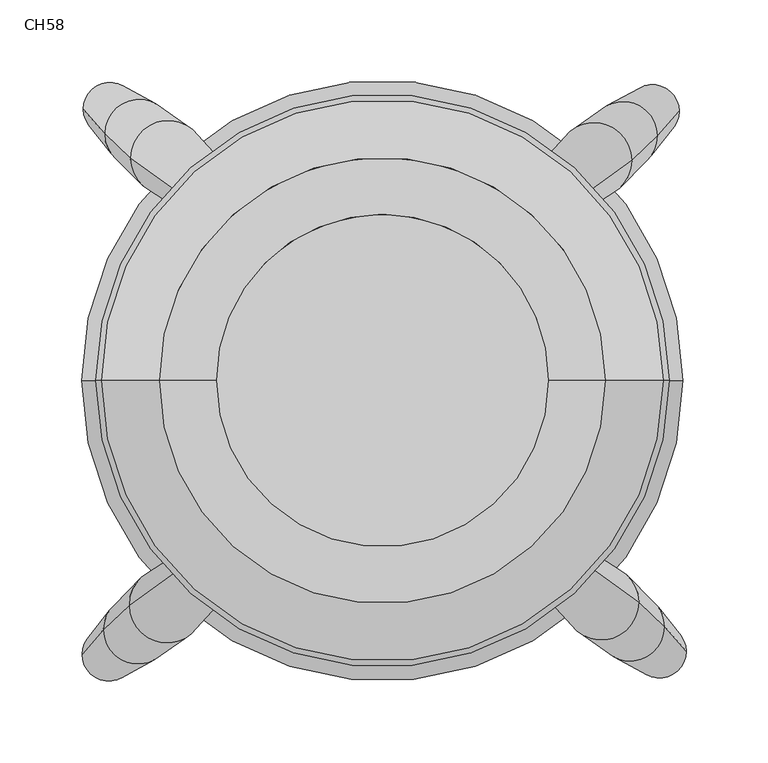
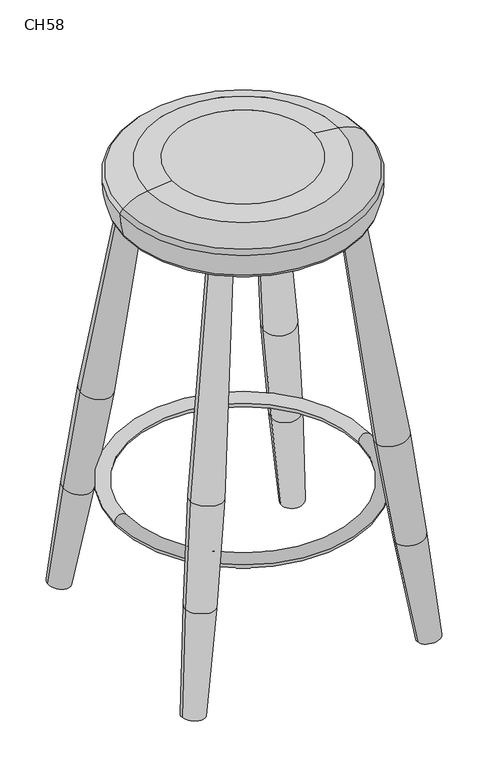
"""IFC4 building model written with IfcOpenShell, lengths in millimetres: furniture geometry, CarlHansen_Seating_Stool_CH56-CH58Barstool : CH58."""

from ifc_helpers import new_model, si_unit, point, frame, origin, place, context, project, spatial, polyline, circle_curve, ellipse_curve, trimmed, source, transform, mapped, element, save
from ifc_brep_helpers import plane_surface, revolved_surface, advanced_brep


def ch58_51923f9c(model_context):
    return source(origin(), model_context, "Body", "AdvancedBrep", [
        advanced_brep(
        [(-797.3298053, 427.0616167, -3.6035523), (-829.5052121, 426.6773511, 0.2039559), (-813.1899315, 426.6773511, 0.2039559), (-774.9628405, 412.1502766, 144.145945), (-816.4165948, 411.6552012, 149.0514156), (-755.2325863, 397.2334777, 291.9495314), (-800.7520729, 396.6898459, 297.3361244), (-723.203949, 364.5685858, 615.6106724), (-755.5848301, 364.1818663, 619.4424956), (-739.4881523, 364.4543855, 616.7422298)],
        [
            (0, 1, circle_curve(frame((-813.4175087, 426.8694839, -1.6997982), z_axis=(-0.11810468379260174, 0.09971026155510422, -0.9879823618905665), x_axis=(-0.9930011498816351, -0.011859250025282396, 0.11750776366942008)), 16.2010924)),
            (1, 2),
            (2, 0),
            (1, 0, circle_curve(frame((-813.4175087, 426.8694839, -1.6997982), z_axis=(-0.11810468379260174, 0.09971026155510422, -0.9879823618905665), x_axis=(-0.9930011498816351, -0.011859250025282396, 0.11750776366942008)), 16.2010924)),
            (3, 4, circle_curve(frame((-795.6897176, 411.9027389, 146.5986803), z_axis=(-0.11810468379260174, 0.09971026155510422, -0.9879823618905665), x_axis=(-0.9930011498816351, -0.011859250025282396, 0.11750776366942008)), 20.8729639)),
            (4, 1),
            (0, 3),
            (4, 3, circle_curve(frame((-795.6897176, 411.9027389, 146.5986803), z_axis=(-0.11810468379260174, 0.09971026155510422, -0.9879823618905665), x_axis=(-0.9930011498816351, -0.011859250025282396, 0.11750776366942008)), 20.8729639)),
            (5, 6, circle_curve(frame((-777.9923296, 396.9616618, 294.6428279), z_axis=(-0.11810468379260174, 0.09971026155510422, -0.9879823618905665), x_axis=(-0.9930011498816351, -0.011859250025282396, 0.11750776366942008)), 22.920158)),
            (6, 4, circle_curve(frame((3460.6054776, 449.2288506, -223.248308), z_axis=(0.0, -0.9949458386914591, -0.1004130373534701), x_axis=(1.0, 0.0, 0.0)), 4293.3596019)),
            (3, 5, circle_curve(frame((-5020.4357739, 347.9411646, 780.3640153), z_axis=(0.0, -0.9949458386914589, -0.10041303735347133), x_axis=(-0.9721025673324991, -0.023552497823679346, 0.2333706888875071)), 4293.3596019)),
            (6, 5, circle_curve(frame((-777.9923296, 396.9616618, 294.6428279), z_axis=(-0.11810468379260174, 0.09971026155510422, -0.9879823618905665), x_axis=(-0.9930011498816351, -0.011859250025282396, 0.11750776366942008)), 22.920158)),
            (7, 8, circle_curve(frame((-739.3943896, 364.375226, 617.526584), z_axis=(-0.11810468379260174, 0.09971026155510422, -0.9879823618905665), x_axis=(-0.9930011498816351, -0.011859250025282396, 0.11750776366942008)), 16.3045537)),
            (8, 6, circle_curve(frame((9062.301073, 518.2931118, -907.573781), z_axis=(0.0, -0.9949458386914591, -0.1004130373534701), x_axis=(1.0, 0.0, 0.0)), 9937.1229535)),
            (5, 7, circle_curve(frame((-10627.1865865, 283.1447869, 1422.4010261), z_axis=(0.0, -0.9949458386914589, -0.10041303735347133), x_axis=(-0.9721025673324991, -0.023552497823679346, 0.2333706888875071)), 9937.1229535)),
            (8, 7, circle_curve(frame((-739.3943896, 364.375226, 617.526584), z_axis=(-0.11810468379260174, 0.09971026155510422, -0.9879823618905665), x_axis=(-0.9930011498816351, -0.011859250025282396, 0.11750776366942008)), 16.3045537)),
            (9, 8),
            (7, 9),
        ],
        [
            revolved_surface(polyline([(-813.1899315, 426.6773511, 0.2039559), (-829.5052121, 426.6773511, 0.2039559)]), (-726.1855757, 353.2236421, 728.0224148), (0.11810468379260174, -0.09971026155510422, 0.9879823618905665)),
            revolved_surface(polyline([(-829.5052121, 426.6773511, 0.2039559), (-816.4165948, 411.6552012, 149.0514156)]), (-726.1855757, 353.2236421, 728.0224148), (0.11810468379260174, -0.09971026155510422, 0.9879823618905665)),
            revolved_surface(trimmed(ellipse_curve(frame((3460.6054776, 449.2288506, -223.248308), z_axis=(0.0, 0.9949458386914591, 0.1004130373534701), x_axis=(1.0, 0.0, 0.0)), 4293.3596019, 4293.3596019), [point((-816.4165948, 411.6552012, 149.0514156))], [point((-800.7520729, 396.6898459, 297.3361244))], True, "CARTESIAN"), (-726.1855757, 353.2236421, 728.0224148), (0.11810468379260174, -0.09971026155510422, 0.9879823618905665)),
            revolved_surface(trimmed(ellipse_curve(frame((3460.6054776, 449.2288506, -223.248308), z_axis=(0.0, 0.9949458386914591, 0.10041303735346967), x_axis=(1.0, 0.0, 0.0)), 4293.3596019, 4293.3596019), [point((-816.4165948, 411.6552012, 149.0514156))], [point((-800.7520729, 396.6898459, 297.3361244))], True, "CARTESIAN"), (-726.1855757, 353.2236421, 728.0224148), (0.11810468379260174, -0.09971026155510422, 0.9879823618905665)),
            revolved_surface(trimmed(ellipse_curve(frame((9062.301073, 518.2931118, -907.573781), z_axis=(0.0, 0.9949458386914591, 0.1004130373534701), x_axis=(1.0, 0.0, 0.0)), 9937.1229535, 9937.1229535), [point((-800.7520729, 396.6898459, 297.3361244))], [point((-755.5848301, 364.1818663, 619.4424956))], True, "CARTESIAN"), (-726.1855757, 353.2236421, 728.0224148), (0.11810468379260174, -0.09971026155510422, 0.9879823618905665)),
            revolved_surface(trimmed(ellipse_curve(frame((9062.301073, 518.2931118, -907.573781), z_axis=(0.0, 0.9949458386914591, 0.10041303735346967), x_axis=(1.0, 0.0, 0.0)), 9937.1229535, 9937.1229535), [point((-800.7520729, 396.6898459, 297.3361244))], [point((-755.5848301, 364.1818663, 619.4424956))], True, "CARTESIAN"), (-726.1855757, 353.2236421, 728.0224148), (0.11810468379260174, -0.09971026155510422, 0.9879823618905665)),
            revolved_surface(polyline([(-755.5848301, 364.1818663, 619.4424956), (-739.4881523, 364.4543855, 616.7422298)]), (-726.1855757, 353.2236421, 728.0224148), (0.11810468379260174, -0.09971026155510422, 0.9879823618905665)),
        ],
        [
            (0, [[1, 2, 3]]),
            (0, [[4, -3, -2]]),
            (1, [[5, 6, -1, 7]]),
            (1, [[8, -7, -4, -6]]),
            (2, [[9, 10, -5, 11]]),
            (3, [[12, -11, -8, -10]]),
            (4, [[13, 14, -9, 15]]),
            (5, [[16, -15, -12, -14]]),
            (6, [[17, -13, 18]]),
            (6, [[-18, -16, -17]]),
        ],
    ),
        advanced_brep(
        [(-481.9670889, 425.2740692, 8.2729303), (-465.6518083, 425.2740692, 8.2729303), (-497.827215, 425.6583348, 4.465422), (-478.7404256, 410.2519193, 157.12039), (-520.1941799, 410.7469947, 152.2149193), (-494.4049475, 395.286564, 305.4050987), (-539.924434, 395.8301958, 300.0185057), (-539.5721902, 362.7785843, 627.51147), (-571.9530713, 363.1653039, 623.6796467), (-555.6688681, 363.0511036, 624.8112041)],
        [
            (0, 1),
            (1, 2, circle_curve(frame((-481.7395116, 425.466202, 6.3691761), z_axis=(0.11810468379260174, 0.09971026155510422, -0.9879823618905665), x_axis=(0.9930011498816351, -0.011859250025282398, 0.11750776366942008)), 16.2010924)),
            (2, 0),
            (2, 1, circle_curve(frame((-481.7395116, 425.466202, 6.3691761), z_axis=(0.11810468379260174, 0.09971026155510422, -0.9879823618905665), x_axis=(0.9930011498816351, -0.011859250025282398, 0.11750776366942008)), 16.2010924)),
            (1, 3),
            (3, 4, circle_curve(frame((-499.4673027, 410.499457, 154.6676547), z_axis=(0.11810468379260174, 0.09971026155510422, -0.9879823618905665), x_axis=(0.9930011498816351, -0.011859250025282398, 0.11750776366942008)), 20.8729639)),
            (4, 2),
            (4, 3, circle_curve(frame((-499.4673027, 410.499457, 154.6676547), z_axis=(0.11810468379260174, 0.09971026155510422, -0.9879823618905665), x_axis=(0.9930011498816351, -0.011859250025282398, 0.11750776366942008)), 20.8729639)),
            (3, 5, circle_curve(frame((-4755.762498, 447.8255687, -215.1793336), z_axis=(0.0, -0.9949458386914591, -0.10041303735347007), x_axis=(-1.0, 0.0, 0.0)), 4293.3596019)),
            (5, 6, circle_curve(frame((-517.1646908, 395.5583799, 302.7118022), z_axis=(0.11810468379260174, 0.09971026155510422, -0.9879823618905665), x_axis=(0.9930011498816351, -0.011859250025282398, 0.11750776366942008)), 22.920158)),
            (6, 4, circle_curve(frame((3725.2787535, 346.5378826, 788.4329896), z_axis=(0.0, -0.9949458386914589, -0.10041303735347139), x_axis=(0.9721025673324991, -0.023552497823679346, 0.23337068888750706)), 4293.3596019)),
            (6, 5, circle_curve(frame((-517.1646908, 395.5583799, 302.7118022), z_axis=(0.11810468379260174, 0.09971026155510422, -0.9879823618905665), x_axis=(0.9930011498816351, -0.011859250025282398, 0.11750776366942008)), 22.920158)),
            (5, 7, circle_curve(frame((-10357.4580934, 516.8898299, -899.5048067), z_axis=(0.0, -0.9949458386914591, -0.10041303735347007), x_axis=(-1.0, 0.0, 0.0)), 9937.1229535)),
            (7, 8, circle_curve(frame((-555.7626308, 362.9719441, 625.5955583), z_axis=(0.11810468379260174, 0.09971026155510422, -0.9879823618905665), x_axis=(0.9930011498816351, -0.011859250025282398, 0.11750776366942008)), 16.3045537)),
            (8, 6, circle_curve(frame((9332.0295661, 281.741505, 1430.4700004), z_axis=(0.0, -0.9949458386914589, -0.10041303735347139), x_axis=(0.9721025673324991, -0.023552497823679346, 0.23337068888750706)), 9937.1229535)),
            (8, 7, circle_curve(frame((-555.7626308, 362.9719441, 625.5955583), z_axis=(0.11810468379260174, 0.09971026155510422, -0.9879823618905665), x_axis=(0.9930011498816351, -0.011859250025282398, 0.11750776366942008)), 16.3045537)),
            (7, 9),
            (9, 8),
        ],
        [
            revolved_surface(polyline([(-465.6518083, 425.2740692, 8.2729303), (-481.9670889, 425.2740692, 8.2729303)]), (-568.9714447, 351.8203602, 736.0913891), (0.11810468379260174, 0.09971026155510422, -0.9879823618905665)),
            revolved_surface(polyline([(-478.7404256, 410.2519193, 157.12039), (-465.6518083, 425.2740692, 8.2729303)]), (-568.9714447, 351.8203602, 736.0913891), (0.11810468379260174, 0.09971026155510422, -0.9879823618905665)),
            revolved_surface(trimmed(ellipse_curve(frame((-4755.762498, 447.8255687, -215.1793336), z_axis=(0.0, 0.9949458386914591, 0.10041303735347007), x_axis=(-1.0, 0.0, 0.0)), 4293.3596019, 4293.3596019), [point((-494.4049475, 395.286564, 305.4050987))], [point((-478.7404256, 410.2519193, 157.12039))], True, "CARTESIAN"), (-568.9714447, 351.8203602, 736.0913891), (0.11810468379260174, 0.09971026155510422, -0.9879823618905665)),
            revolved_surface(trimmed(ellipse_curve(frame((-4755.762498, 447.8255687, -215.1793336), z_axis=(0.0, 0.9949458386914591, 0.10041303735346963), x_axis=(-1.0, 0.0, 0.0)), 4293.3596019, 4293.3596019), [point((-494.4049475, 395.286564, 305.4050987))], [point((-478.7404256, 410.2519193, 157.12039))], True, "CARTESIAN"), (-568.9714447, 351.8203602, 736.0913891), (0.11810468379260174, 0.09971026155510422, -0.9879823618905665)),
            revolved_surface(trimmed(ellipse_curve(frame((-10357.4580934, 516.8898299, -899.5048067), z_axis=(0.0, 0.9949458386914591, 0.10041303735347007), x_axis=(-1.0, 0.0, 0.0)), 9937.1229535, 9937.1229535), [point((-539.5721902, 362.7785843, 627.51147))], [point((-494.4049475, 395.286564, 305.4050987))], True, "CARTESIAN"), (-568.9714447, 351.8203602, 736.0913891), (0.11810468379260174, 0.09971026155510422, -0.9879823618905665)),
            revolved_surface(trimmed(ellipse_curve(frame((-10357.4580934, 516.8898299, -899.5048067), z_axis=(0.0, 0.9949458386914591, 0.10041303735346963), x_axis=(-1.0, 0.0, 0.0)), 9937.1229535, 9937.1229535), [point((-539.5721902, 362.7785843, 627.51147))], [point((-494.4049475, 395.286564, 305.4050987))], True, "CARTESIAN"), (-568.9714447, 351.8203602, 736.0913891), (0.11810468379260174, 0.09971026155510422, -0.9879823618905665)),
            revolved_surface(polyline([(-555.6688681, 363.0511036, 624.8112041), (-539.5721902, 362.7785843, 627.51147)]), (-568.9714447, 351.8203602, 736.0913891), (0.11810468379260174, 0.09971026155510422, -0.9879823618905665)),
        ],
        [
            (0, [[1, 2, 3]]),
            (0, [[-3, 4, -1]]),
            (1, [[-2, 5, 6, 7]]),
            (1, [[-4, -7, 8, -5]]),
            (2, [[-6, 9, 10, 11]]),
            (3, [[-8, -11, 12, -9]]),
            (4, [[-10, 13, 14, 15]]),
            (5, [[-12, -15, 16, -13]]),
            (6, [[-14, 17, 18]]),
            (6, [[-16, -18, -17]]),
        ],
    ),
        advanced_brep(
        [(-493.5735026, 94.8762682, -3.598143), (-461.3980959, 95.2605338, 0.2093652), (-477.7133765, 95.2605338, 0.2093652), (-515.9404675, 109.7876083, 144.1513543), (-474.4867132, 110.2826837, 149.0568249), (-535.6707216, 124.7044073, 291.9549407), (-490.1512351, 125.2480391, 297.3415337), (-567.6993589, 157.3692992, 615.6160817), (-535.3184778, 157.7560187, 619.447905), (-551.4151557, 157.4834995, 616.7476391)],
        [
            (0, 1, circle_curve(frame((-477.4857992, 95.068401, -1.6943889), z_axis=(0.11810468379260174, -0.09971026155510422, -0.9879823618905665), x_axis=(0.9930011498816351, 0.011859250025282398, 0.11750776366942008)), 16.2010924)),
            (1, 2),
            (2, 0),
            (1, 0, circle_curve(frame((-477.4857992, 95.068401, -1.6943889), z_axis=(0.11810468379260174, -0.09971026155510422, -0.9879823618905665), x_axis=(0.9930011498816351, 0.011859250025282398, 0.11750776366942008)), 16.2010924)),
            (3, 4, circle_curve(frame((-495.2135903, 110.035146, 146.6040896), z_axis=(0.11810468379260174, -0.09971026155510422, -0.9879823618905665), x_axis=(0.9930011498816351, 0.011859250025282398, 0.11750776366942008)), 20.8729639)),
            (4, 1),
            (0, 3),
            (4, 3, circle_curve(frame((-495.2135903, 110.035146, 146.6040896), z_axis=(0.11810468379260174, -0.09971026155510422, -0.9879823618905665), x_axis=(0.9930011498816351, 0.011859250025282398, 0.11750776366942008)), 20.8729639)),
            (5, 6, circle_curve(frame((-512.9109784, 124.9762232, 294.6482372), z_axis=(0.11810468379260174, -0.09971026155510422, -0.9879823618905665), x_axis=(0.9930011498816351, 0.011859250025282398, 0.11750776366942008)), 22.920158)),
            (6, 4, circle_curve(frame((-4751.5087856, 72.7090344, -223.2428987), z_axis=(0.0, 0.9949458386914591, -0.10041303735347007), x_axis=(-1.0, 0.0, 0.0)), 4293.3596019)),
            (3, 5, circle_curve(frame((3729.5324659, 173.9967204, 780.3694246), z_axis=(0.0, 0.9949458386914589, -0.10041303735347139), x_axis=(0.9721025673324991, 0.023552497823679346, 0.23337068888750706)), 4293.3596019)),
            (6, 5, circle_curve(frame((-512.9109784, 124.9762232, 294.6482372), z_axis=(0.11810468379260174, -0.09971026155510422, -0.9879823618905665), x_axis=(0.9930011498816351, 0.011859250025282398, 0.11750776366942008)), 22.920158)),
            (7, 8, circle_curve(frame((-551.5089184, 157.5626589, 617.5319933), z_axis=(0.11810468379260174, -0.09971026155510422, -0.9879823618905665), x_axis=(0.9930011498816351, 0.011859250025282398, 0.11750776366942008)), 16.3045537)),
            (8, 6, circle_curve(frame((-10353.204381, 3.6447732, -907.5683717), z_axis=(0.0, 0.9949458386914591, -0.10041303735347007), x_axis=(-1.0, 0.0, 0.0)), 9937.1229535)),
            (5, 7, circle_curve(frame((9336.2832785, 238.7930981, 1422.4064354), z_axis=(0.0, 0.9949458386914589, -0.10041303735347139), x_axis=(0.9721025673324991, 0.023552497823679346, 0.23337068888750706)), 9937.1229535)),
            (8, 7, circle_curve(frame((-551.5089184, 157.5626589, 617.5319933), z_axis=(0.11810468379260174, -0.09971026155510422, -0.9879823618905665), x_axis=(0.9930011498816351, 0.011859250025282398, 0.11750776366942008)), 16.3045537)),
            (9, 8),
            (7, 9),
        ],
        [
            revolved_surface(polyline([(-477.7133765, 95.2605338, 0.2093652), (-461.3980959, 95.2605338, 0.2093652)]), (-564.7177323, 168.7142428, 728.0278241), (-0.11810468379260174, 0.09971026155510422, 0.9879823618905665)),
            revolved_surface(polyline([(-461.3980959, 95.2605338, 0.2093652), (-474.4867132, 110.2826837, 149.0568249)]), (-564.7177323, 168.7142428, 728.0278241), (-0.11810468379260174, 0.09971026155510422, 0.9879823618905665)),
            revolved_surface(trimmed(ellipse_curve(frame((-4751.5087856, 72.7090344, -223.2428987), z_axis=(0.0, -0.9949458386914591, 0.10041303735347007), x_axis=(-1.0, 0.0, 0.0)), 4293.3596019, 4293.3596019), [point((-474.4867132, 110.2826837, 149.0568249))], [point((-490.1512351, 125.2480391, 297.3415337))], True, "CARTESIAN"), (-564.7177323, 168.7142428, 728.0278241), (-0.11810468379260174, 0.09971026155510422, 0.9879823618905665)),
            revolved_surface(trimmed(ellipse_curve(frame((-4751.5087856, 72.7090344, -223.2428987), z_axis=(0.0, -0.9949458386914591, 0.10041303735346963), x_axis=(-1.0, 0.0, 0.0)), 4293.3596019, 4293.3596019), [point((-474.4867132, 110.2826837, 149.0568249))], [point((-490.1512351, 125.2480391, 297.3415337))], True, "CARTESIAN"), (-564.7177323, 168.7142428, 728.0278241), (-0.11810468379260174, 0.09971026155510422, 0.9879823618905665)),
            revolved_surface(trimmed(ellipse_curve(frame((-10353.204381, 3.6447732, -907.5683717), z_axis=(0.0, -0.9949458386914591, 0.10041303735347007), x_axis=(-1.0, 0.0, 0.0)), 9937.1229535, 9937.1229535), [point((-490.1512351, 125.2480391, 297.3415337))], [point((-535.3184778, 157.7560187, 619.447905))], True, "CARTESIAN"), (-564.7177323, 168.7142428, 728.0278241), (-0.11810468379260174, 0.09971026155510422, 0.9879823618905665)),
            revolved_surface(trimmed(ellipse_curve(frame((-10353.204381, 3.6447732, -907.5683717), z_axis=(0.0, -0.9949458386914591, 0.10041303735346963), x_axis=(-1.0, 0.0, 0.0)), 9937.1229535, 9937.1229535), [point((-490.1512351, 125.2480391, 297.3415337))], [point((-535.3184778, 157.7560187, 619.447905))], True, "CARTESIAN"), (-564.7177323, 168.7142428, 728.0278241), (-0.11810468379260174, 0.09971026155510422, 0.9879823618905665)),
            revolved_surface(polyline([(-535.3184778, 157.7560187, 619.447905), (-551.4151557, 157.4834995, 616.7476391)]), (-564.7177323, 168.7142428, 728.0278241), (-0.11810468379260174, 0.09971026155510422, 0.9879823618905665)),
        ],
        [
            (0, [[1, 2, 3]]),
            (0, [[4, -3, -2]]),
            (1, [[5, 6, -1, 7]]),
            (1, [[8, -7, -4, -6]]),
            (2, [[9, 10, -5, 11]]),
            (3, [[12, -11, -8, -10]]),
            (4, [[13, 14, -9, 15]]),
            (5, [[16, -15, -12, -14]]),
            (6, [[17, -13, 18]]),
            (6, [[-18, -16, -17]]),
        ],
    ),
        advanced_brep(
        [(-813.9718708, 93.4826975, 1.338204), (-830.2871514, 93.4826975, 1.338204), (-798.1117446, 93.0984319, -2.4693043), (-817.1985341, 108.5048474, 150.1856637), (-775.7447797, 108.009772, 145.280193), (-801.5340121, 123.4702028, 298.4703724), (-756.0145256, 122.926571, 293.0837794), (-756.3667694, 155.9781824, 620.5767437), (-723.9858883, 155.5914629, 616.7449204), (-740.2700916, 155.7056632, 617.8764778)],
        [
            (0, 1),
            (1, 2, circle_curve(frame((-814.199448, 93.2905647, -0.5655502), z_axis=(-0.11810468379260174, -0.09971026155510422, -0.9879823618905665), x_axis=(-0.9930011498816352, 0.011859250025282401, 0.11750776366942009)), 16.2010924)),
            (2, 0),
            (2, 1, circle_curve(frame((-814.199448, 93.2905647, -0.5655502), z_axis=(-0.11810468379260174, -0.09971026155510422, -0.9879823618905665), x_axis=(-0.9930011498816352, 0.011859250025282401, 0.11750776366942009)), 16.2010924)),
            (1, 3),
            (3, 4, circle_curve(frame((-796.4716569, 108.2573097, 147.7329283), z_axis=(-0.11810468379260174, -0.09971026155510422, -0.9879823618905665), x_axis=(-0.9930011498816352, 0.011859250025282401, 0.11750776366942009)), 20.8729639)),
            (4, 2),
            (4, 3, circle_curve(frame((-796.4716569, 108.2573097, 147.7329283), z_axis=(-0.11810468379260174, -0.09971026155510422, -0.9879823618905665), x_axis=(-0.9930011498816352, 0.011859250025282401, 0.11750776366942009)), 20.8729639)),
            (3, 5, circle_curve(frame((3459.8235383, 70.9311981, -222.1140599), z_axis=(0.0, 0.9949458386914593, -0.10041303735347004), x_axis=(1.0000000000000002, 0.0, 0.0)), 4293.3596019)),
            (5, 6, circle_curve(frame((-778.7742689, 123.1983869, 295.7770759), z_axis=(-0.11810468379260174, -0.09971026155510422, -0.9879823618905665), x_axis=(-0.9930011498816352, 0.011859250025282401, 0.11750776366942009)), 22.920158)),
            (6, 4, circle_curve(frame((-5021.2177131, 172.2188841, 781.4982633), z_axis=(0.0, 0.994945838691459, -0.10041303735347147), x_axis=(-0.9721025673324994, 0.023552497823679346, 0.23337068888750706)), 4293.3596019)),
            (6, 5, circle_curve(frame((-778.7742689, 123.1983869, 295.7770759), z_axis=(-0.11810468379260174, -0.09971026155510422, -0.9879823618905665), x_axis=(-0.9930011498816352, 0.011859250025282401, 0.11750776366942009)), 22.920158)),
            (5, 7, circle_curve(frame((9061.5191337, 1.8669369, -906.439533), z_axis=(0.0, 0.9949458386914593, -0.10041303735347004), x_axis=(1.0000000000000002, 0.0, 0.0)), 9937.1229535)),
            (7, 8, circle_curve(frame((-740.1763289, 155.7848226, 618.660832), z_axis=(-0.11810468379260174, -0.09971026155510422, -0.9879823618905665), x_axis=(-0.9930011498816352, 0.011859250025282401, 0.11750776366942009)), 16.3045537)),
            (8, 6, circle_curve(frame((-10627.9685257, 237.0152618, 1423.5352741), z_axis=(0.0, 0.994945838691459, -0.10041303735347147), x_axis=(-0.9721025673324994, 0.023552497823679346, 0.23337068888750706)), 9937.1229535)),
            (8, 7, circle_curve(frame((-740.1763289, 155.7848226, 618.660832), z_axis=(-0.11810468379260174, -0.09971026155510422, -0.9879823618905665), x_axis=(-0.9930011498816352, 0.011859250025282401, 0.11750776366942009)), 16.3045537)),
            (7, 9),
            (9, 8),
        ],
        [
            revolved_surface(polyline([(-830.2871514, 93.4826975, 1.338204), (-813.9718708, 93.4826975, 1.338204)]), (-726.967515, 166.9364065, 729.1566628), (-0.11810468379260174, -0.09971026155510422, -0.9879823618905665)),
            revolved_surface(polyline([(-817.1985341, 108.5048474, 150.1856637), (-830.2871514, 93.4826975, 1.338204)]), (-726.967515, 166.9364065, 729.1566628), (-0.11810468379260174, -0.09971026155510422, -0.9879823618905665)),
            revolved_surface(trimmed(ellipse_curve(frame((3459.8235383, 70.9311981, -222.1140599), z_axis=(0.0, -0.9949458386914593, 0.10041303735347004), x_axis=(1.0000000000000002, 0.0, 0.0)), 4293.3596019, 4293.3596019), [point((-801.5340121, 123.4702028, 298.4703724))], [point((-817.1985341, 108.5048474, 150.1856637))], True, "CARTESIAN"), (-726.967515, 166.9364065, 729.1566628), (-0.11810468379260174, -0.09971026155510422, -0.9879823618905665)),
            revolved_surface(trimmed(ellipse_curve(frame((3459.8235383, 70.9311981, -222.1140599), z_axis=(0.0, -0.9949458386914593, 0.10041303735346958), x_axis=(1.0000000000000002, 0.0, 0.0)), 4293.3596019, 4293.3596019), [point((-801.5340121, 123.4702028, 298.4703724))], [point((-817.1985341, 108.5048474, 150.1856637))], True, "CARTESIAN"), (-726.967515, 166.9364065, 729.1566628), (-0.11810468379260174, -0.09971026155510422, -0.9879823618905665)),
            revolved_surface(trimmed(ellipse_curve(frame((9061.5191337, 1.8669369, -906.439533), z_axis=(0.0, -0.9949458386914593, 0.10041303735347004), x_axis=(1.0000000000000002, 0.0, 0.0)), 9937.1229535, 9937.1229535), [point((-756.3667694, 155.9781824, 620.5767437))], [point((-801.5340121, 123.4702028, 298.4703724))], True, "CARTESIAN"), (-726.967515, 166.9364065, 729.1566628), (-0.11810468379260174, -0.09971026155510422, -0.9879823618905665)),
            revolved_surface(trimmed(ellipse_curve(frame((9061.5191337, 1.8669369, -906.439533), z_axis=(0.0, -0.9949458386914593, 0.10041303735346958), x_axis=(1.0000000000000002, 0.0, 0.0)), 9937.1229535, 9937.1229535), [point((-756.3667694, 155.9781824, 620.5767437))], [point((-801.5340121, 123.4702028, 298.4703724))], True, "CARTESIAN"), (-726.967515, 166.9364065, 729.1566628), (-0.11810468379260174, -0.09971026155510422, -0.9879823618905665)),
            revolved_surface(polyline([(-740.2700916, 155.7056632, 617.8764778), (-756.3667694, 155.9781824, 620.5767437)]), (-726.967515, 166.9364065, 729.1566628), (-0.11810468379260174, -0.09971026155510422, -0.9879823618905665)),
        ],
        [
            (0, [[1, 2, 3]]),
            (0, [[-3, 4, -1]]),
            (1, [[-2, 5, 6, 7]]),
            (1, [[-4, -7, 8, -5]]),
            (2, [[-6, 9, 10, 11]]),
            (3, [[-8, -11, 12, -9]]),
            (4, [[-10, 13, 14, 15]]),
            (5, [[-12, -15, 16, -13]]),
            (6, [[-14, 17, 18]]),
            (6, [[-16, -18, -17]]),
        ],
    ),
        advanced_brep(
        [(-811.3619303, 260.6903236, 193.998583), (-482.3426637, 260.6903236, 193.998583), (-463.3289833, 260.6903236, 193.998583), (-830.3756106, 260.6903236, 193.998583)],
        [
            (0, 1, circle_curve(frame((-646.852297, 260.6903236, 193.998583), z_axis=(0.0, 0.0, -1.0), x_axis=(1.0, 0.0, 0.0)), 164.5096333)),
            (1, 2, circle_curve(frame((-472.8358235, 260.6903236, 193.998583), z_axis=(0.0, 1.0, 0.0), x_axis=(-1.0, 0.0, 0.0)), 9.5068402)),
            (2, 3, circle_curve(frame((-646.852297, 260.6903236, 193.998583), z_axis=(0.0, 0.0, 1.0), x_axis=(1.0, 0.0, 0.0)), 183.5233137)),
            (3, 0, circle_curve(frame((-820.8687704, 260.6903236, 193.998583), z_axis=(0.0, 1.0, 0.0), x_axis=(1.0, 0.0, 0.0)), 9.5068402)),
            (2, 1, circle_curve(frame((-472.8358235, 260.6903236, 193.998583), z_axis=(0.0, 1.0, 0.0), x_axis=(-1.0, 0.0, 0.0)), 9.5068402)),
            (0, 3, circle_curve(frame((-820.8687704, 260.6903236, 193.998583), z_axis=(0.0, 1.0, 0.0), x_axis=(1.0, 0.0, 0.0)), 9.5068402)),
            (1, 0, circle_curve(frame((-646.852297, 260.6903236, 193.998583), z_axis=(0.0, 0.0, -1.0), x_axis=(-1.0, 0.0, 0.0)), 164.5096333)),
            (3, 2, circle_curve(frame((-646.852297, 260.6903236, 193.998583), z_axis=(0.0, 0.0, 1.0), x_axis=(-1.0, 0.0, 0.0)), 183.5233137)),
        ],
        [
            revolved_surface(trimmed(ellipse_curve(frame((-472.8358235, 260.6903236, 193.998583), z_axis=(0.0, -1.0, 0.0), x_axis=(-1.0, 0.0, 0.0)), 9.5068402, 9.5068402), [point((-463.3289833, 260.6903236, 193.998583))], [point((-482.3426637, 260.6903236, 193.998583))], True, "CARTESIAN"), (-646.852297, 260.6903236, 193.998583), (0.0, 0.0, 1.0)),
            revolved_surface(trimmed(ellipse_curve(frame((-472.8358235, 260.6903236, 193.998583), z_axis=(0.0, -1.0, 0.0), x_axis=(-1.0, 0.0, 0.0)), 9.5068402, 9.5068402), [point((-482.3426637, 260.6903236, 193.998583))], [point((-463.3289833, 260.6903236, 193.998583))], True, "CARTESIAN"), (-646.852297, 260.6903236, 193.998583), (0.0, 0.0, 1.0)),
            revolved_surface(trimmed(ellipse_curve(frame((-820.8687704, 260.6903236, 193.998583), z_axis=(0.0, 1.0, 0.0), x_axis=(1.0, 0.0, 0.0)), 9.5068402, 9.5068402), [point((-830.3756106, 260.6903236, 193.998583))], [point((-811.3619303, 260.6903236, 193.998583))], True, "CARTESIAN"), (-646.852297, 260.6903236, 193.998583), (0.0, 0.0, 1.0)),
            revolved_surface(trimmed(ellipse_curve(frame((-820.8687704, 260.6903236, 193.998583), z_axis=(0.0, 1.0, 0.0), x_axis=(1.0, 0.0, 0.0)), 9.5068402, 9.5068402), [point((-811.3619303, 260.6903236, 193.998583))], [point((-830.3756106, 260.6903236, 193.998583))], True, "CARTESIAN"), (-646.852297, 260.6903236, 193.998583), (0.0, 0.0, 1.0)),
        ],
        [
            (0, [[1, 2, 3, 4]]),
            (1, [[-3, 5, -1, 6]]),
            (2, [[7, -4, 8, -2]]),
            (3, [[-8, -6, -7, -5]]),
        ],
    ),
        advanced_brep(
        [(-476.9136862, 260.6903236, 621.1913771), (-816.7909077, 260.6903236, 621.1913771), (-808.4704267, 260.6903236, 615.2013732), (-485.2341673, 260.6903236, 615.2013732), (-471.8145799, 260.6903236, 654.5103111), (-821.890014, 260.6903236, 654.5103111), (-475.1651022, 260.6903236, 661.6908805), (-818.5394918, 260.6903236, 661.6908805), (-510.4616011, 260.6903236, 677.0633505), (-783.2429929, 260.6903236, 677.0633505), (-545.252297, 260.6903236, 680.72), (-748.452297, 260.6903236, 680.72)],
        [
            (0, 1, circle_curve(frame((-646.852297, 260.6903236, 621.1913771), z_axis=(0.0, 0.0, -1.0), x_axis=(-1.0, 0.0, 0.0)), 169.9386108)),
            (1, 2, circle_curve(frame((-808.4704267, 260.6903236, 623.9752032), z_axis=(0.0, -1.0, 0.0), x_axis=(1.0, 0.0, 0.0)), 8.77383)),
            (2, 3, circle_curve(frame((-646.852297, 260.6903236, 615.2013732), z_axis=(0.0, 0.0, 1.0), x_axis=(-1.0, 0.0, 0.0)), 161.6181297)),
            (3, 0, circle_curve(frame((-485.2341673, 260.6903236, 623.9752032), z_axis=(0.0, -1.0, 0.0), x_axis=(-1.0, 0.0, 0.0)), 8.77383)),
            (0, 4, circle_curve(frame((-570.8325998, 260.6903236, 652.6143106), z_axis=(0.0, -1.0, 0.0), x_axis=(-1.0, 0.0, 0.0)), 99.0361706)),
            (4, 5, circle_curve(frame((-646.852297, 260.6903236, 654.5103111), z_axis=(0.0, 0.0, -1.0), x_axis=(-1.0, 0.0, 0.0)), 175.0377171)),
            (5, 1, circle_curve(frame((-722.8719941, 260.6903236, 652.6143106), z_axis=(0.0, -1.0, 0.0), x_axis=(1.0, 0.0, 0.0)), 99.0361706)),
            (4, 6, circle_curve(frame((-481.5852026, 260.6903236, 654.3232228), z_axis=(0.0, -1.0, 0.0), x_axis=(-1.0, 0.0, 0.0)), 9.7724137)),
            (6, 7, circle_curve(frame((-646.852297, 260.6903236, 661.6908805), z_axis=(0.0, 0.0, -1.0), x_axis=(-1.0, 0.0, 0.0)), 171.6871948)),
            (7, 5, circle_curve(frame((-812.1193914, 260.6903236, 654.3232228), z_axis=(0.0, -1.0, 0.0), x_axis=(1.0, 0.0, 0.0)), 9.7724137)),
            (6, 8, circle_curve(frame((-517.1402172, 260.6903236, 613.5205626), z_axis=(0.0, -1.0, 0.0), x_axis=(-1.0, 0.0, 0.0)), 63.8927994)),
            (8, 9, circle_curve(frame((-646.852297, 260.6903236, 677.0633505), z_axis=(0.0, 0.0, -1.0), x_axis=(-1.0, 0.0, 0.0)), 136.3906959)),
            (9, 7, circle_curve(frame((-776.5643768, 260.6903236, 613.5205626), z_axis=(0.0, -1.0, 0.0), x_axis=(1.0, 0.0, 0.0)), 63.8927994)),
            (8, 10),
            (10, 11, circle_curve(frame((-646.852297, 260.6903236, 680.72), z_axis=(0.0, 0.0, -1.0), x_axis=(-1.0, 0.0, 0.0)), 101.6)),
            (11, 9),
            (2, 3, circle_curve(frame((-646.852297, 260.6903236, 615.2013732), z_axis=(0.0, 0.0, -1.0), x_axis=(1.0, 0.0, 0.0)), 161.6181297)),
            (1, 0, circle_curve(frame((-646.852297, 260.6903236, 621.1913771), z_axis=(0.0, 0.0, -1.0), x_axis=(1.0, 0.0, 0.0)), 169.9386108)),
            (5, 4, circle_curve(frame((-646.852297, 260.6903236, 654.5103111), z_axis=(0.0, 0.0, -1.0), x_axis=(1.0, 0.0, 0.0)), 175.0377171)),
            (7, 6, circle_curve(frame((-646.852297, 260.6903236, 661.6908805), z_axis=(0.0, 0.0, -1.0), x_axis=(1.0, 0.0, 0.0)), 171.6871948)),
            (9, 8, circle_curve(frame((-646.852297, 260.6903236, 677.0633505), z_axis=(0.0, 0.0, -1.0), x_axis=(1.0, 0.0, 0.0)), 136.3906959)),
            (11, 10, circle_curve(frame((-646.852297, 260.6903236, 680.72), z_axis=(0.0, 0.0, -1.0), x_axis=(1.0, 0.0, 0.0)), 101.6)),
        ],
        [
            revolved_surface(trimmed(ellipse_curve(frame((-808.4704267, 260.6903236, 623.9752032), z_axis=(0.0, 1.0, 0.0), x_axis=(1.0, 0.0, 0.0)), 8.77383, 8.77383), [point((-808.4704267, 260.6903236, 615.2013732))], [point((-816.7909077, 260.6903236, 621.1913771))], True, "CARTESIAN"), (-646.852297, 260.6903236, 615.2013732), (0.0, 0.0, 1.0)),
            revolved_surface(trimmed(ellipse_curve(frame((-722.8719941, 260.6903236, 652.6143106), z_axis=(0.0, 1.0, 0.0), x_axis=(1.0, 0.0, 0.0)), 99.0361706, 99.0361706), [point((-816.7909077, 260.6903236, 621.1913771))], [point((-821.890014, 260.6903236, 654.5103111))], True, "CARTESIAN"), (-646.852297, 260.6903236, 615.2013732), (0.0, 0.0, 1.0)),
            revolved_surface(trimmed(ellipse_curve(frame((-812.1193914, 260.6903236, 654.3232228), z_axis=(0.0, 1.0, 0.0), x_axis=(1.0, 0.0, 0.0)), 9.7724137, 9.7724137), [point((-821.890014, 260.6903236, 654.5103111))], [point((-818.5394918, 260.6903236, 661.6908805))], True, "CARTESIAN"), (-646.852297, 260.6903236, 615.2013732), (0.0, 0.0, 1.0)),
            revolved_surface(trimmed(ellipse_curve(frame((-776.5643768, 260.6903236, 613.5205626), z_axis=(0.0, 1.0, 0.0), x_axis=(1.0, 0.0, 0.0)), 63.8927994, 63.8927994), [point((-818.5394918, 260.6903236, 661.6908805))], [point((-783.2429929, 260.6903236, 677.0633505))], True, "CARTESIAN"), (-646.852297, 260.6903236, 615.2013732), (0.0, 0.0, 1.0)),
            revolved_surface(polyline([(-783.2429929, 260.6903236, 677.0633505), (-748.452297, 260.6903236, 680.72)]), (-646.852297, 260.6903236, 615.2013732), (0.0, 0.0, 1.0)),
            plane_surface(frame((-646.852297, 260.6903236, 615.2013732), z_axis=(0.0, 0.0, -1.0), x_axis=(1.0, 0.0, 0.0))),
            revolved_surface(trimmed(ellipse_curve(frame((-485.2341673, 260.6903236, 623.9752032), z_axis=(0.0, -1.0, 0.0), x_axis=(-1.0, 0.0, 0.0)), 8.77383, 8.77383), [point((-485.2341673, 260.6903236, 615.2013732))], [point((-476.9136862, 260.6903236, 621.1913771))], True, "CARTESIAN"), (-646.852297, 260.6903236, 615.2013732), (0.0, 0.0, 1.0)),
            revolved_surface(trimmed(ellipse_curve(frame((-570.8325998, 260.6903236, 652.6143106), z_axis=(0.0, -1.0, 0.0), x_axis=(-1.0, 0.0, 0.0)), 99.0361706, 99.0361706), [point((-476.9136862, 260.6903236, 621.1913771))], [point((-471.8145799, 260.6903236, 654.5103111))], True, "CARTESIAN"), (-646.852297, 260.6903236, 615.2013732), (0.0, 0.0, 1.0)),
            revolved_surface(trimmed(ellipse_curve(frame((-481.5852026, 260.6903236, 654.3232228), z_axis=(0.0, -1.0, 0.0), x_axis=(-1.0, 0.0, 0.0)), 9.7724137, 9.7724137), [point((-471.8145799, 260.6903236, 654.5103111))], [point((-475.1651022, 260.6903236, 661.6908805))], True, "CARTESIAN"), (-646.852297, 260.6903236, 615.2013732), (0.0, 0.0, 1.0)),
            revolved_surface(trimmed(ellipse_curve(frame((-517.1402172, 260.6903236, 613.5205626), z_axis=(0.0, -1.0, 0.0), x_axis=(-1.0, 0.0, 0.0)), 63.8927994, 63.8927994), [point((-475.1651022, 260.6903236, 661.6908805))], [point((-510.4616011, 260.6903236, 677.0633505))], True, "CARTESIAN"), (-646.852297, 260.6903236, 615.2013732), (0.0, 0.0, 1.0)),
            revolved_surface(polyline([(-510.4616011, 260.6903236, 677.0633505), (-545.252297, 260.6903236, 680.72)]), (-646.852297, 260.6903236, 615.2013732), (0.0, 0.0, 1.0)),
            plane_surface(frame((-545.252297, 260.6903236, 680.72), z_axis=(0.0, 0.0, 1.0), x_axis=(0.0, 1.0, 0.0))),
        ],
        [
            (0, [[1, 2, 3, 4]]),
            (1, [[-1, 5, 6, 7]]),
            (2, [[-6, 8, 9, 10]]),
            (3, [[-9, 11, 12, 13]]),
            (4, [[-12, 14, 15, 16]]),
            (5, [[-3, 17]]),
            (6, [[-2, 18, -4, -17]]),
            (7, [[-7, 19, -5, -18]]),
            (8, [[-10, 20, -8, -19]]),
            (9, [[-13, 21, -11, -20]]),
            (10, [[-16, 22, -14, -21]]),
            (11, [[-15, -22]]),
        ],
    ),
    ])


if __name__ == "__main__":
    model = new_model("IFC4")
    model_context = context("Model", 3, world=origin())
    ifc_project = project(units=[si_unit("LENGTHUNIT", "METRE", prefix="MILLI")], contexts=[model_context])
    site = spatial("IfcSite", under=ifc_project)
    building = spatial("IfcBuilding", under=site)
    placement = place(None, origin())
    ch58_shape = ch58_51923f9c(model_context)
    element("IfcFurniture", 1, ObjectType="CarlHansen_Seating_Stool_CH56-CH58Barstool : CH58", at=placement, inside=building, context=model_context, shape_type="MappedRepresentation", body=[
        mapped(ch58_shape, transform((0.0, 0.0, 0.0), x_axis=(1.0, 0.0, 0.0), y_axis=(0.0, 1.0, 0.0), z_axis=(0.0, 0.0, 1.0))),
    ])
    save(model, "model.ifc")
